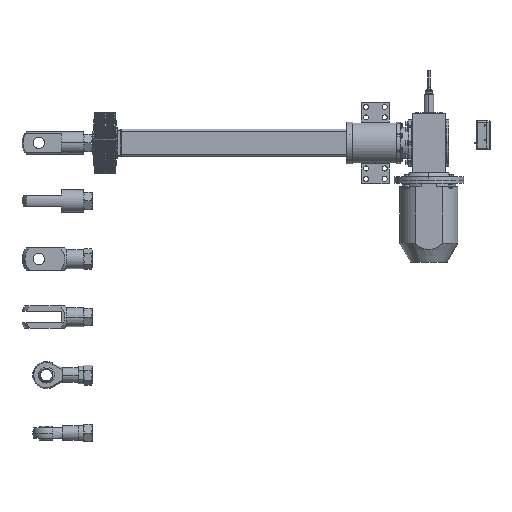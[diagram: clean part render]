
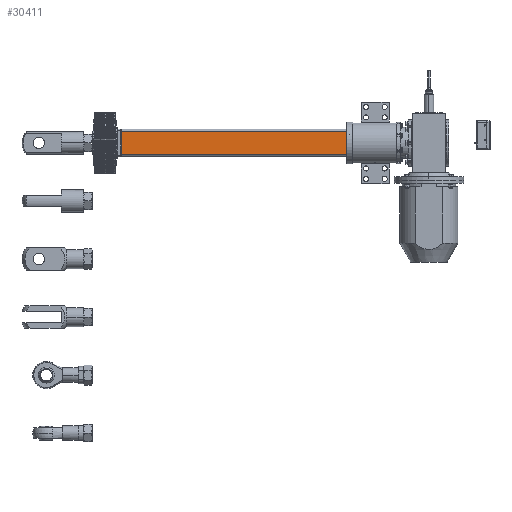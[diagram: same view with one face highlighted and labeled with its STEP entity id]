
A CAD part, front view. The second image highlights one B-rep face of the part: STEP entity #30411.
In plain terms, the highlighted planar face has unit normal (0, -1, 0).
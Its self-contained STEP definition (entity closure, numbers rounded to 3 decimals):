
#3268 = AXIS2_PLACEMENT_3D ( 'NONE', #55601, #55620, #55622 ) ;
#10820 = EDGE_CURVE ( 'NONE', #15118, #15091, #37732, .T. ) ;
#10854 = EDGE_CURVE ( 'NONE', #15118, #37226, #37782, .T. ) ;
#10855 = EDGE_CURVE ( 'NONE', #37226, #36959, #37780, .T. ) ;
#10856 = EDGE_CURVE ( 'NONE', #15091, #36959, #37785, .T. ) ;
#13830 = CARTESIAN_POINT ( 'NONE',  ( 2., -60., -48. ) ) ;
#14150 = CARTESIAN_POINT ( 'NONE',  ( 2., -60., 48. ) ) ;
#15091 = VERTEX_POINT ( 'NONE', #19669 ) ;
#15118 = VERTEX_POINT ( 'NONE', #19696 ) ;
#15280 = EDGE_LOOP ( 'NONE', ( #41284, #41286, #41288, #41290 ) ) ;
#19669 = CARTESIAN_POINT ( 'NONE',  ( 980., -60., -48. ) ) ;
#19696 = CARTESIAN_POINT ( 'NONE',  ( 980., -60., 48. ) ) ;
#30411 = ADVANCED_FACE ( 'NONE', ( #42358 ), #55615, .F. ) ;
#30763 = CARTESIAN_POINT ( 'NONE',  ( 980., -60., 48. ) ) ;
#30764 = DIRECTION ( 'NONE',  ( 0., 0., -1. ) ) ;
#30840 = DIRECTION ( 'NONE',  ( -1., 0., 0. ) ) ;
#30845 = CARTESIAN_POINT ( 'NONE',  ( 980., -60., 48. ) ) ;
#30847 = CARTESIAN_POINT ( 'NONE',  ( 2., -60., 48. ) ) ;
#30852 = DIRECTION ( 'NONE',  ( 0., 0., -1. ) ) ;
#30853 = CARTESIAN_POINT ( 'NONE',  ( 980., -60., -48. ) ) ;
#30855 = DIRECTION ( 'NONE',  ( -1., 0., 0. ) ) ;
#36959 = VERTEX_POINT ( 'NONE', #13830 ) ;
#37226 = VERTEX_POINT ( 'NONE', #14150 ) ;
#37732 = LINE ( 'NONE', #30763, #37733 ) ;
#37733 = VECTOR ( 'NONE', #30764, 1000. ) ;
#37780 = LINE ( 'NONE', #30847, #37786 ) ;
#37782 = LINE ( 'NONE', #30845, #37784 ) ;
#37784 = VECTOR ( 'NONE', #30840, 1000. ) ;
#37785 = LINE ( 'NONE', #30853, #37788 ) ;
#37786 = VECTOR ( 'NONE', #30852, 1000. ) ;
#37788 = VECTOR ( 'NONE', #30855, 1000. ) ;
#41284 = ORIENTED_EDGE ( 'NONE', *, *, #10854, .T. ) ;
#41286 = ORIENTED_EDGE ( 'NONE', *, *, #10855, .T. ) ;
#41288 = ORIENTED_EDGE ( 'NONE', *, *, #10856, .F. ) ;
#41290 = ORIENTED_EDGE ( 'NONE', *, *, #10820, .F. ) ;
#42358 = FACE_OUTER_BOUND ( 'NONE', #15280, .T. ) ;
#55601 = CARTESIAN_POINT ( 'NONE',  ( 980., -60., 48. ) ) ;
#55615 = PLANE ( 'NONE',  #3268 ) ;
#55620 = DIRECTION ( 'NONE',  ( 0., 1., 0. ) ) ;
#55622 = DIRECTION ( 'NONE',  ( 0., 0., 1. ) ) ;
